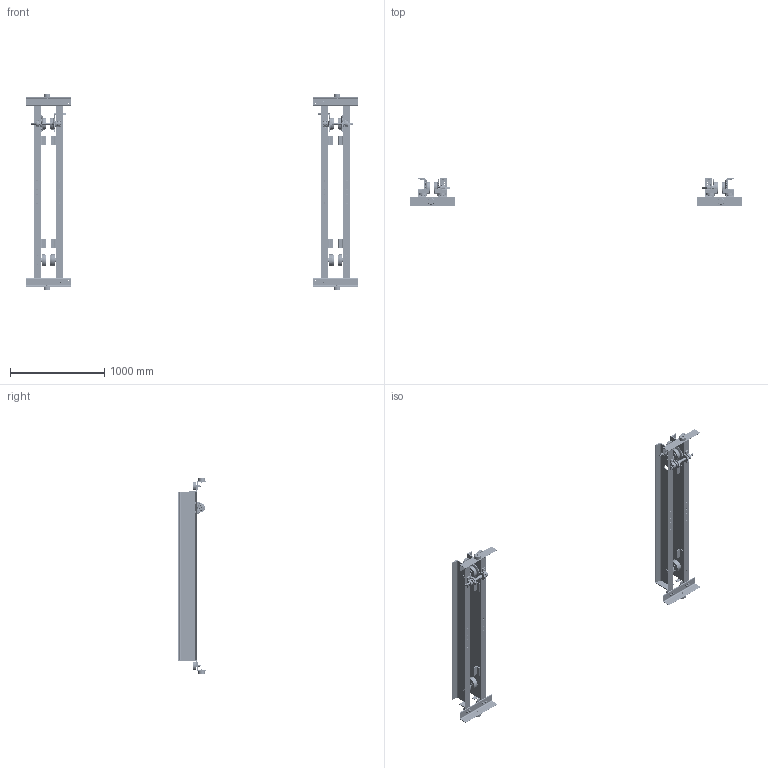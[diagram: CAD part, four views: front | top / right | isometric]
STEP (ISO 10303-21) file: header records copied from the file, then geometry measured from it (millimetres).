
FILE_DESCRIPTION (( 'STEP AP214' ), '1' );
FILE_NAME ('UG-3-0345.STEP', '2026-08-12T14:34:11', ( '' ), ( '' ), 'SwSTEP 2.0', 'SolidWorks 2026', '' );
FILE_SCHEMA (( 'AUTOMOTIVE_DESIGN' ));
Length unit declared in the file: inch
Products named in the file (63): 9093354_9093354; 6234702X_6234702B; 62334XXU_6233414U; 6232803_6232803; N6QL210114; 6232302; 6234502; N6QL210116; 9000507; N6QL210207; 62332XXU_6233214U; N6QL520E9101; 6232402; 9012711_9012711; 9093427_9093427; 9093101_9093101; 9012519_9012519; MC08-018.7_70; 9047120_9047120; N6GO310V301; 62330XXU_6233014U; 9000504; N6QO3101108_N6QO3101108; 6234701X_6234701B; 9043411; 9012515_9012515; N6QL5201101; 6232602; N6GO310306; 9047252_9047252; 9093424_9093424; 9000605; N6QL210209; 5204405_5204405; N6GO310303; N6QL210115; 9047242_9047242; N6QO310E9108_N6QO3101108 DOMESTIC; 9093327_9093327; N6QL210113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
Assembly tree (290 placements, depth 4):
  UG-3-0345
    62332XXU_6233214U
      62328XXU_6232814U
        MC08-018.7_70
        6232803_6232803
        6232803_6232803
      6232302  x2
      6232304  x2
      5204405_5204405  x2
      6233203  x2
      6257004
    62333XXU_6233314U  x2
      62329XXU_6232914U
        MC08-018.7_70
        6232803_6232803
        6232803_6232803
      6232302
      6232304
      5204405_5204405
      6233203
    62334XXU_6233414U
      62330XXU_6233014U
        MC08-018.7_70
        6232803_6232803
        6232803_6232803
      6232302  x2
      6232304  x2
      5204405_5204405  x2
      6233203  x2
      6257004
    6234701X_6234701B  x2
    6234702X_6234702B  x2
    6234502  x4
      6232602
      9000507
      9047262_B27.7M - 3BM1-62
    6232402  x8
    9047135_9047135  x8
    9093146_9093146  x8
    9012515_9012515  x16
    9093433_9093433  x32
    N6QO3101108_N6QO3101108  x8
      N6QO310E9108_N6QO3101108 DOMESTIC
      9047252_9047252
      9000605
    6232404  x8
    9047125_B27.7M - 3AM1-23  x8
    N6QL210207  x4
    9012514_9012514  x12
    9093101_9093101  x4
    9093424_9093424  x8
    N6QL5201101  x4
      N6QL520E9101
      9000507
      9047262_B27.7M - 3BM1-62
    N6QL210116  x4
    9012712_9012712  x8
    9093354_9093354  x8
    9043411  x8
    9093427_9093427  x8
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Bounding box: 3519.98 x 292.1 x 2084.61 mm (x, y, z)
Volume: 36919259.4 mm3; surface area: 7938687.7 mm2
Topology: 312 solids, 424 shells, 22212 faces, 58444 edges, 38454 vertices
Faces by surface type: plane 12446, cylinder 4022, bspline 3764, cone 1748, torus 232
Entity records: 175071 total; most frequent: CARTESIAN_POINT 82286, ORIENTED_EDGE 19872, DIRECTION 15668, EDGE_CURVE 9942, VERTEX_POINT 6539, AXIS2_PLACEMENT_3D 5623, LINE 4422, VECTOR 4422
